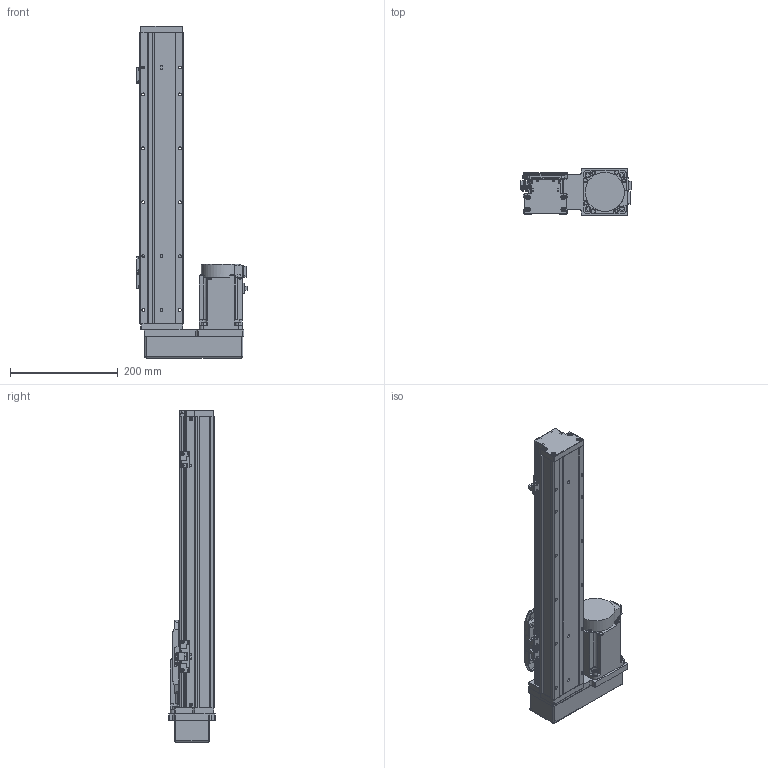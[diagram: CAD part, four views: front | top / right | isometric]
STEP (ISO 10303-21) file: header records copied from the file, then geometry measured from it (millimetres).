
FILE_DESCRIPTION (( 'STEP AP203' ), '1' );
FILE_NAME ('GTH8-350-BR-M75-C4.step', '2023-02-14T02:33:14', ( '微软用户' ), ( '微软中国' ), 'SwSTEP 2.0', 'SolidWorks 2020', '' );
FILE_SCHEMA (( 'CONFIG_CONTROL_DESIGN' ));
Length unit declared in the file: millimetre
Products named in the file (18): GBT 70.3-M3℅6; GTH50-023; GBT96.1-2002 3×0.8; GTH80-022; BTH-M3X5X6; GTH80-001_350; GBT 70.1-M3℅6; CTHA86-015-3_CTHA86-015-4; GTH80-003; GBT 70.1-M4×16; CTHA86-035; GTH80-004; GTH80-028; hg-kn73j_-s100; GTH80-006; GTH50-024; GTH8-350-BR-M75-C4; GTH80-013
Assembly tree (57 placements, depth 2):
  GTH8-350-BR-M75-C4
    GTH80-001_350
    GTH80-003
    GTH80-004
    GTH80-006
    GTH80-013
    GBT 70.3-M3℅6  x4
    GTH80-022
    GBT 70.1-M3℅6  x14
    GBT 70.1-M4×16  x8
    GTH80-028  x2
    GTH50-024  x3
    GTH50-023  x3
    GBT96.1-2002 3×0.8  x6
    BTH-M3X5X6  x8
    CTHA86-015-3_CTHA86-015-4
    CTHA86-035
    hg-kn73j_-s100
Bounding box: 204.7 x 87 x 616 mm (x, y, z)
Volume: 3885125.9 mm3; surface area: 422238.7 mm2
Topology: 59 solids, 59 shells, 2187 faces, 5070 edges, 3104 vertices
Faces by surface type: plane 1153, cylinder 619, cone 243, torus 158, sphere 12, bspline 2
Entity records: 39292 total; most frequent: CARTESIAN_POINT 6599, DIRECTION 6473, ORIENTED_EDGE 5950, EDGE_CURVE 2975, AXIS2_PLACEMENT_3D 2278, VECTOR 1917, LINE 1917, VERTEX_POINT 1879
